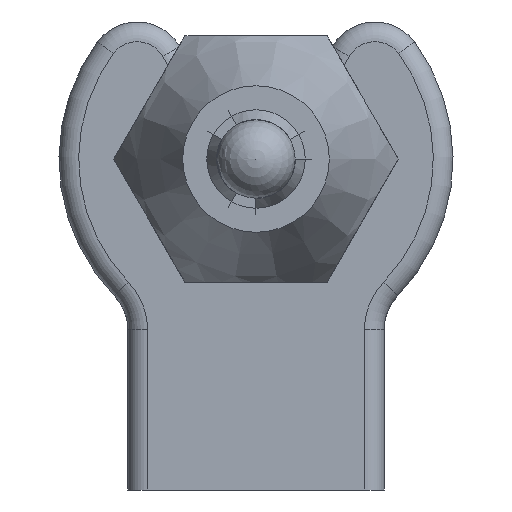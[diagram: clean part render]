
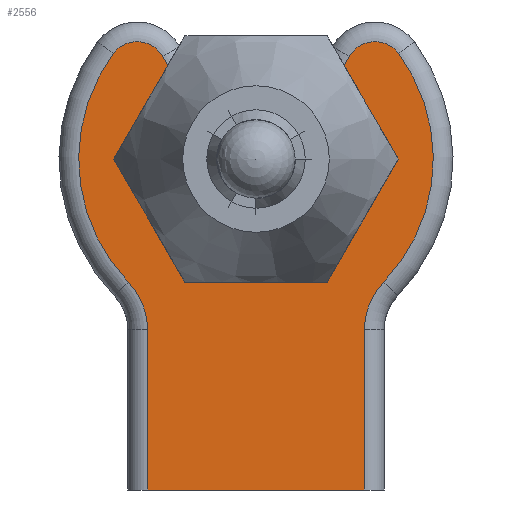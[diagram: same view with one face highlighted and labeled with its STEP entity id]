
A CAD part, left-side view. The second image highlights one B-rep face of the part: STEP entity #2556.
In plain terms, the highlighted planar face has unit normal (-1, 0, 0).
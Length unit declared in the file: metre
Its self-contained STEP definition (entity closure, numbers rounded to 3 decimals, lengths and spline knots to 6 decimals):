
#2556=ADVANCED_FACE('',(#5096),#5097,.T.);
#5096=FACE_OUTER_BOUND('',#8096,.T.);
#5097=PLANE('',#8097);
#8096=EDGE_LOOP('',(#15577,#15578,#15579,#15580,#15581,#15582,#15583,#15584,#15585,#15586,#15587,#15588,#15589,#15590));
#8097=AXIS2_PLACEMENT_3D('',#15591,#15592,#15593);
#15577=ORIENTED_EDGE('',*,*,#18355,.T.);
#15578=ORIENTED_EDGE('',*,*,#18359,.T.);
#15579=ORIENTED_EDGE('',*,*,#18547,.T.);
#15580=ORIENTED_EDGE('',*,*,#18318,.T.);
#15581=ORIENTED_EDGE('',*,*,#18321,.T.);
#15582=ORIENTED_EDGE('',*,*,#18325,.T.);
#15583=ORIENTED_EDGE('',*,*,#18328,.T.);
#15584=ORIENTED_EDGE('',*,*,#18332,.T.);
#15585=ORIENTED_EDGE('',*,*,#18335,.T.);
#15586=ORIENTED_EDGE('',*,*,#18338,.T.);
#15587=ORIENTED_EDGE('',*,*,#18341,.T.);
#15588=ORIENTED_EDGE('',*,*,#18345,.T.);
#15589=ORIENTED_EDGE('',*,*,#18348,.T.);
#15590=ORIENTED_EDGE('',*,*,#18352,.T.);
#15591=CARTESIAN_POINT('',(-0.031,0.0,0.033));
#15592=DIRECTION('',(-1.0,0.0,0.0));
#15593=DIRECTION('',(0.0,1.0,0.0));
#18318=EDGE_CURVE('',#22468,#22471,#22473,.F.);
#18321=EDGE_CURVE('',#22471,#22475,#22477,.F.);
#18325=EDGE_CURVE('',#22475,#22480,#22482,.T.);
#18328=EDGE_CURVE('',#22480,#22484,#22486,.T.);
#18332=EDGE_CURVE('',#22484,#22489,#22491,.F.);
#18335=EDGE_CURVE('',#22489,#22493,#22495,.T.);
#18338=EDGE_CURVE('',#22493,#22497,#22499,.F.);
#18341=EDGE_CURVE('',#22497,#22501,#22503,.T.);
#18345=EDGE_CURVE('',#22501,#22506,#22508,.T.);
#18348=EDGE_CURVE('',#22506,#22510,#22512,.T.);
#18352=EDGE_CURVE('',#22510,#22515,#22517,.T.);
#18355=EDGE_CURVE('',#22515,#22519,#22521,.F.);
#18359=EDGE_CURVE('',#22519,#22525,#22527,.T.);
#18547=EDGE_CURVE('',#22525,#22468,#22754,.F.);
#22468=VERTEX_POINT('',#29504);
#22471=VERTEX_POINT('',#29508);
#22473=LINE('',#29510,#29511);
#22475=VERTEX_POINT('',#29513);
#22477=CIRCLE('',#29515,0.007);
#22480=VERTEX_POINT('',#29518);
#22482=CIRCLE('',#29520,0.018);
#22484=VERTEX_POINT('',#29522);
#22486=CIRCLE('',#29524,0.003);
#22489=VERTEX_POINT('',#29528);
#22491=LINE('',#29530,#29531);
#22493=VERTEX_POINT('',#29533);
#22495=CIRCLE('',#29535,0.003);
#22497=VERTEX_POINT('',#29537);
#22499=CIRCLE('',#29539,0.0105);
#22501=VERTEX_POINT('',#29541);
#22503=CIRCLE('',#29543,0.003);
#22506=VERTEX_POINT('',#29547);
#22508=LINE('',#29549,#29550);
#22510=VERTEX_POINT('',#29552);
#22512=CIRCLE('',#29554,0.003);
#22515=VERTEX_POINT('',#29557);
#22517=CIRCLE('',#29559,0.018);
#22519=VERTEX_POINT('',#29561);
#22521=CIRCLE('',#29563,0.007);
#22525=VERTEX_POINT('',#29568);
#22527=LINE('',#29570,#29571);
#22754=LINE('',#29855,#29856);
#29504=CARTESIAN_POINT('',(-0.031,-0.011,0.0));
#29508=CARTESIAN_POINT('',(-0.031,-0.011,0.016251));
#29510=CARTESIAN_POINT('',(-0.031,-0.011,0.033));
#29511=VECTOR('',#31542,1.0);
#29513=CARTESIAN_POINT('',(-0.031,-0.01296,0.021108));
#29515=AXIS2_PLACEMENT_3D('',#31546,#31547,#31548);
#29518=CARTESIAN_POINT('',(-0.031,-0.014475,0.044299));
#29520=AXIS2_PLACEMENT_3D('',#31555,#31556,#31557);
#29522=CARTESIAN_POINT('',(-0.031,-0.009465,0.044016));
#29524=AXIS2_PLACEMENT_3D('',#31561,#31562,#31563);
#29528=CARTESIAN_POINT('',(-0.031,-0.008638,0.042584));
#29530=CARTESIAN_POINT('',(-0.031,-0.008638,0.042584));
#29531=VECTOR('',#31568,1.0);
#29533=CARTESIAN_POINT('',(-0.031,-0.008739,0.039421));
#29535=AXIS2_PLACEMENT_3D('',#31572,#31573,#31574);
#29537=CARTESIAN_POINT('',(-0.031,0.008739,0.039421));
#29539=AXIS2_PLACEMENT_3D('',#31578,#31579,#31580);
#29541=CARTESIAN_POINT('',(-0.031,0.008638,0.042584));
#29543=AXIS2_PLACEMENT_3D('',#31584,#31585,#31586);
#29547=CARTESIAN_POINT('',(-0.031,0.009465,0.044016));
#29549=CARTESIAN_POINT('',(-0.031,0.009465,0.044016));
#29550=VECTOR('',#31591,1.0);
#29552=CARTESIAN_POINT('',(-0.031,0.014475,0.044299));
#29554=AXIS2_PLACEMENT_3D('',#31595,#31596,#31597);
#29557=CARTESIAN_POINT('',(-0.031,0.01296,0.021108));
#29559=AXIS2_PLACEMENT_3D('',#31604,#31605,#31606);
#29561=CARTESIAN_POINT('',(-0.031,0.011,0.016251));
#29563=AXIS2_PLACEMENT_3D('',#31610,#31611,#31612);
#29568=CARTESIAN_POINT('',(-0.031,0.011,0.0));
#29570=CARTESIAN_POINT('',(-0.031,0.011,0.033));
#29571=VECTOR('',#31617,1.0);
#29855=CARTESIAN_POINT('',(-0.031,0.0,0.0));
#29856=VECTOR('',#31852,1.0);
#31542=DIRECTION('',(0.0,0.0,-1.0));
#31546=CARTESIAN_POINT('',(-0.031,-0.018,0.016251));
#31547=DIRECTION('',(-1.0,0.0,0.0));
#31548=DIRECTION('',(0.0,0.0,1.0));
#31555=CARTESIAN_POINT('',(-0.031,0.,0.0336));
#31556=DIRECTION('',(-1.0,0.0,0.0));
#31557=DIRECTION('',(0.0,0.0,1.0));
#31561=CARTESIAN_POINT('',(-0.031,-0.012063,0.042516));
#31562=DIRECTION('',(-1.0,0.0,0.0));
#31563=DIRECTION('',(0.0,0.0,1.0));
#31568=DIRECTION('',(0.0,-0.5,0.866));
#31572=CARTESIAN_POINT('',(-0.031,-0.011236,0.041084));
#31573=DIRECTION('',(-1.0,0.0,0.0));
#31574=DIRECTION('',(0.0,0.0,1.0));
#31578=CARTESIAN_POINT('',(-0.031,0.,0.0336));
#31579=DIRECTION('',(-1.0,0.0,0.0));
#31580=DIRECTION('',(0.0,0.0,1.0));
#31584=CARTESIAN_POINT('',(-0.031,0.011236,0.041084));
#31585=DIRECTION('',(-1.0,0.0,0.0));
#31586=DIRECTION('',(0.0,0.0,1.0));
#31591=DIRECTION('',(0.0,0.5,0.866));
#31595=CARTESIAN_POINT('',(-0.031,0.012063,0.042516));
#31596=DIRECTION('',(-1.0,0.0,0.0));
#31597=DIRECTION('',(0.0,0.0,1.0));
#31604=CARTESIAN_POINT('',(-0.031,0.,0.0336));
#31605=DIRECTION('',(-1.0,0.0,0.0));
#31606=DIRECTION('',(0.0,0.0,1.0));
#31610=CARTESIAN_POINT('',(-0.031,0.018,0.016251));
#31611=DIRECTION('',(-1.0,0.0,0.0));
#31612=DIRECTION('',(0.0,0.0,1.0));
#31617=DIRECTION('',(0.0,0.0,-1.0));
#31852=DIRECTION('',(0.0,1.0,0.0));
